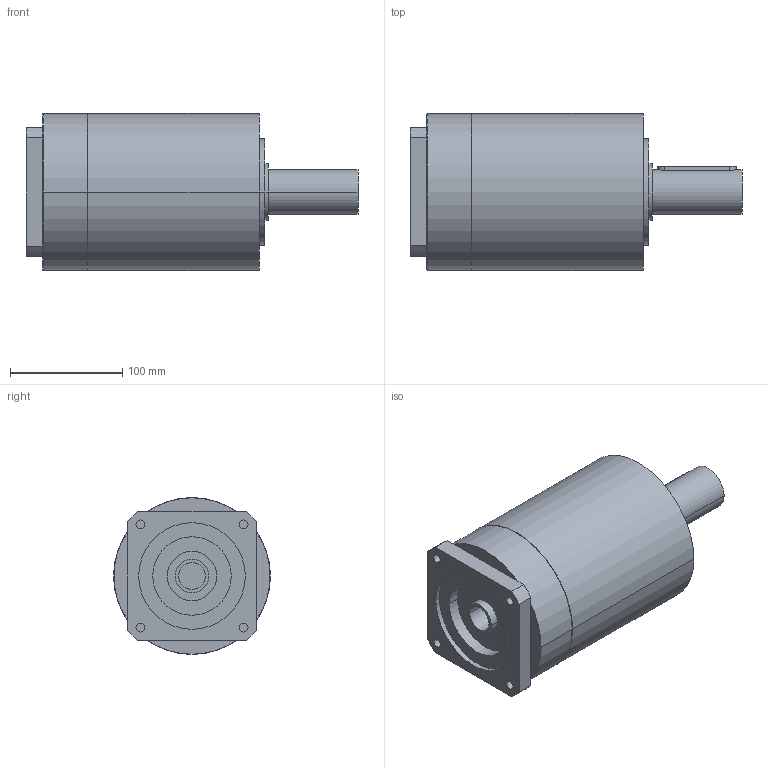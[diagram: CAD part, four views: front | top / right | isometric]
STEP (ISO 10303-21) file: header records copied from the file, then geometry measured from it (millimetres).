
FILE_DESCRIPTION(('CoCreate Modeling STEP Export'),'2;1');
FILE_NAME('GPR150_ig-9-12-16-20-28-35_40_B14_24_P10.stp','2014-08-19T17:03:35',(''),(''),'CoCreate Modeling STEP processor for AP214 (Solid Model)','CoCreate Modeling 16.00C 25-Feb-2009 (C) Parametric Technology GmbH','');
FILE_SCHEMA(('AUTOMOTIVE_DESIGN { 1 0 10303 214 1 1 1 1 }'));
Length unit declared in the file: millimetre
Products named in the file (2): GPR150_ig-9-12-16-20-28-35_40_B14_24_P10
Assembly tree (1 placements, depth 2):
  GPR150_ig-9-12-16-20-28-35_40_B14_24_P10
    GPR150_ig-9-12-16-20-28-35_40_B14_24_P10
Bounding box: 296 x 140 x 140 mm (x, y, z)
Volume: 3203259.1 mm3; surface area: 150710.2 mm2
Topology: 1 solids, 1 shells, 84 faces, 206 edges, 140 vertices
Faces by surface type: cylinder 44, plane 34, cone 6
Entity records: 2121 total; most frequent: ORIENTED_EDGE 408, CARTESIAN_POINT 404, DIRECTION 280, EDGE_CURVE 204, VERTEX_POINT 140, AXIS2_PLACEMENT_3D 104, EDGE_LOOP 102, FACE_OUTER_BOUND 84
